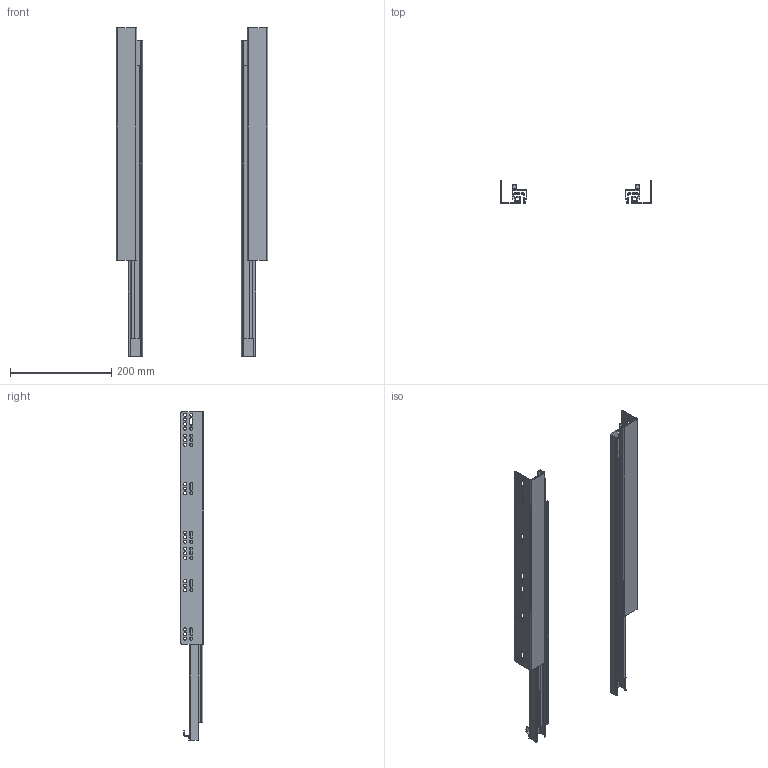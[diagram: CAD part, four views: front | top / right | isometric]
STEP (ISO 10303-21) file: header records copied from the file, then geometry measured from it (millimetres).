
FILE_DESCRIPTION (( 'STEP AP203' ), '1' );
FILE_NAME ('502824.STEP', '2026-02-11T12:44:45', ( '' ), ( '' ), 'SwSTEP 2.0', 'SolidWorks 2025', '' );
FILE_SCHEMA (( 'CONFIG_CONTROL_DESIGN' ));
Length unit declared in the file: millimetre
Products named in the file (3): výsuv levý_NL650; výsuv_NL650; 502824
Assembly tree (2 placements, depth 2):
  502824
    výsuv_NL650
    výsuv levý_NL650
Bounding box: 300 x 46 x 650 mm (x, y, z)
Volume: 348506.1 mm3; surface area: 498543.9 mm2
Topology: 8 solids, 8 shells, 566 faces, 1382 edges, 832 vertices
Faces by surface type: plane 294, cylinder 254, bspline 18
Entity records: 17297 total; most frequent: CARTESIAN_POINT 3233, DIRECTION 2948, ORIENTED_EDGE 2764, EDGE_CURVE 1382, AXIS2_PLACEMENT_3D 1053, VECTOR 842, LINE 842, VERTEX_POINT 832
